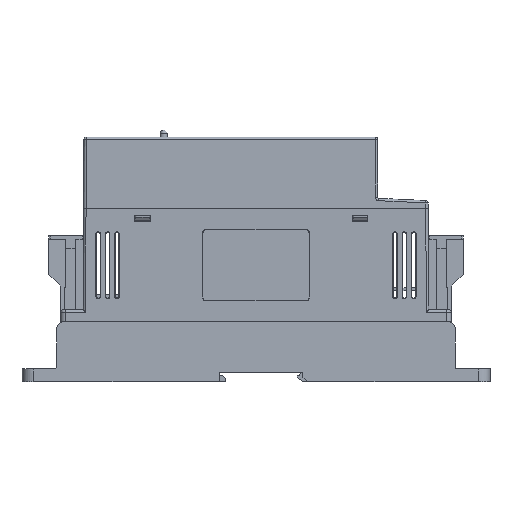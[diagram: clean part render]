
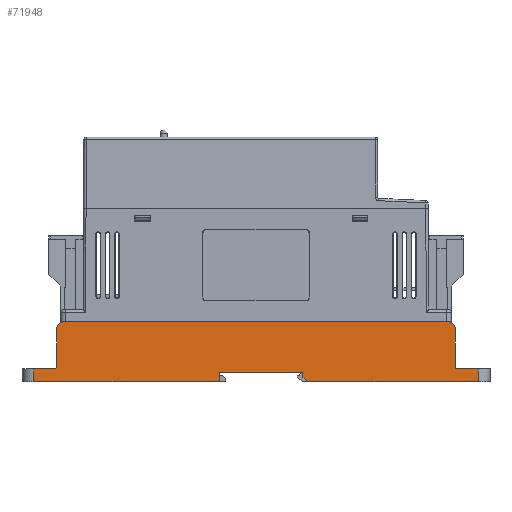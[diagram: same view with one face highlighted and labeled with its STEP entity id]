
A CAD part, left-side view. The second image highlights one B-rep face of the part: STEP entity #71948.
In plain terms, the highlighted planar face has unit normal (-1, 0, 0.009).
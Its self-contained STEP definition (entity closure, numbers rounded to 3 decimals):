
#402=ELLIPSE('',#76035,1.,1.);
#408=ELLIPSE('',#76072,1.,1.);
#437=ELLIPSE('',#76342,3.,3.);
#438=ELLIPSE('',#76343,3.,3.);
#7553=LINE('',#112250,#15929);
#8122=LINE('',#113785,#16498);
#8123=LINE('',#113788,#16499);
#8133=LINE('',#113809,#16509);
#8162=LINE('',#113870,#16538);
#8309=LINE('',#114168,#16685);
#8398=LINE('',#114474,#16774);
#8739=LINE('',#115507,#17115);
#8803=LINE('',#115646,#17179);
#8810=LINE('',#115661,#17186);
#8813=LINE('',#115670,#17189);
#8814=LINE('',#115673,#17190);
#8815=LINE('',#115674,#17191);
#8816=LINE('',#115676,#17192);
#8817=LINE('',#115677,#17193);
#15929=VECTOR('',#88928,1.);
#16498=VECTOR('',#90487,10.);
#16499=VECTOR('',#90490,10.);
#16509=VECTOR('',#90504,10.);
#16538=VECTOR('',#90537,10.);
#16685=VECTOR('',#90726,10.);
#16774=VECTOR('',#90861,10.);
#17115=VECTOR('',#91694,10.);
#17179=VECTOR('',#91798,10.);
#17186=VECTOR('',#91813,10.);
#17189=VECTOR('',#91826,10.);
#17190=VECTOR('',#91831,10.);
#17191=VECTOR('',#91832,10.);
#17192=VECTOR('',#91833,10.);
#17193=VECTOR('',#91834,10.);
#21122=FACE_OUTER_BOUND('',#24932,.T.);
#24932=EDGE_LOOP('',(#59153,#59154,#59155,#59156,#59157,#59158,#59159,#59160,
#59161,#59162,#59163,#59164,#59165,#59166,#59167,#59168,#59169,#59170,#59171));
#31489=VERTEX_POINT('',#112248);
#31490=VERTEX_POINT('',#112249);
#31806=VERTEX_POINT('',#113783);
#31807=VERTEX_POINT('',#113787);
#31815=VERTEX_POINT('',#113806);
#31816=VERTEX_POINT('',#113808);
#31845=VERTEX_POINT('',#113867);
#31846=VERTEX_POINT('',#113869);
#31948=VERTEX_POINT('',#114103);
#31975=VERTEX_POINT('',#114165);
#31976=VERTEX_POINT('',#114167);
#32087=VERTEX_POINT('',#114471);
#32088=VERTEX_POINT('',#114473);
#32097=VERTEX_POINT('',#114493);
#32321=VERTEX_POINT('',#115504);
#32322=VERTEX_POINT('',#115506);
#32377=VERTEX_POINT('',#115645);
#32381=VERTEX_POINT('',#115659);
#32383=VERTEX_POINT('',#115675);
#40117=EDGE_CURVE('',#31489,#31490,#7553,.T.);
#40807=EDGE_CURVE('',#31490,#31806,#8122,.T.);
#40808=EDGE_CURVE('',#31807,#31489,#8123,.T.);
#40818=EDGE_CURVE('',#31815,#31816,#8133,.T.);
#40848=EDGE_CURVE('',#31846,#31845,#8162,.T.);
#40979=EDGE_CURVE('',#31845,#31948,#402,.T.);
#41011=EDGE_CURVE('',#31975,#31976,#8309,.T.);
#41125=EDGE_CURVE('',#32088,#32087,#8398,.T.);
#41135=EDGE_CURVE('',#32097,#32088,#408,.T.);
#41548=EDGE_CURVE('',#32321,#32322,#8739,.T.);
#41619=EDGE_CURVE('',#32377,#32097,#8803,.T.);
#41627=EDGE_CURVE('',#32381,#31948,#8810,.T.);
#41632=EDGE_CURVE('',#32321,#31846,#8813,.T.);
#41633=EDGE_CURVE('',#32381,#31806,#437,.T.);
#41634=EDGE_CURVE('',#31807,#32377,#438,.T.);
#41635=EDGE_CURVE('',#32087,#31976,#8814,.T.);
#41636=EDGE_CURVE('',#31816,#31975,#8815,.T.);
#41637=EDGE_CURVE('',#32383,#31815,#8816,.T.);
#41638=EDGE_CURVE('',#32383,#32322,#8817,.T.);
#59153=ORIENTED_EDGE('',*,*,#41548,.F.);
#59154=ORIENTED_EDGE('',*,*,#41632,.T.);
#59155=ORIENTED_EDGE('',*,*,#40848,.T.);
#59156=ORIENTED_EDGE('',*,*,#40979,.T.);
#59157=ORIENTED_EDGE('',*,*,#41627,.F.);
#59158=ORIENTED_EDGE('',*,*,#41633,.T.);
#59159=ORIENTED_EDGE('',*,*,#40807,.F.);
#59160=ORIENTED_EDGE('',*,*,#40117,.F.);
#59161=ORIENTED_EDGE('',*,*,#40808,.F.);
#59162=ORIENTED_EDGE('',*,*,#41634,.T.);
#59163=ORIENTED_EDGE('',*,*,#41619,.T.);
#59164=ORIENTED_EDGE('',*,*,#41135,.T.);
#59165=ORIENTED_EDGE('',*,*,#41125,.T.);
#59166=ORIENTED_EDGE('',*,*,#41635,.T.);
#59167=ORIENTED_EDGE('',*,*,#41011,.F.);
#59168=ORIENTED_EDGE('',*,*,#41636,.F.);
#59169=ORIENTED_EDGE('',*,*,#40818,.F.);
#59170=ORIENTED_EDGE('',*,*,#41637,.F.);
#59171=ORIENTED_EDGE('',*,*,#41638,.T.);
#65165=PLANE('',#76341);
#71948=ADVANCED_FACE('',(#21122),#65165,.F.);
#76035=AXIS2_PLACEMENT_3D('',#114105,#90682,#90683);
#76072=AXIS2_PLACEMENT_3D('',#114494,#90877,#90878);
#76341=AXIS2_PLACEMENT_3D('',#115669,#91824,#91825);
#76342=AXIS2_PLACEMENT_3D('',#115671,#91827,#91828);
#76343=AXIS2_PLACEMENT_3D('',#115672,#91829,#91830);
#88928=DIRECTION('',(0.,-1.,0.));
#90487=DIRECTION('',(0.,-1.,0.));
#90490=DIRECTION('',(0.,-1.,0.));
#90504=DIRECTION('',(0.,1.,0.));
#90537=DIRECTION('',(0.,1.,0.));
#90682=DIRECTION('center_axis',(1.,0.,-0.009));
#90683=DIRECTION('ref_axis',(0.009,0.,1.));
#90726=DIRECTION('',(0.,1.,0.));
#90861=DIRECTION('',(0.,1.,0.));
#90877=DIRECTION('center_axis',(1.,0.,-0.009));
#90878=DIRECTION('ref_axis',(0.009,0.,1.));
#91694=DIRECTION('',(0.,1.,0.));
#91798=DIRECTION('',(-0.009,0.,-1.));
#91813=DIRECTION('',(-0.009,0.,-1.));
#91824=DIRECTION('center_axis',(1.,0.,-0.009));
#91825=DIRECTION('ref_axis',(-0.009,0.,-1.));
#91826=DIRECTION('',(0.009,0.,1.));
#91827=DIRECTION('center_axis',(-1.,0.,0.009));
#91828=DIRECTION('ref_axis',(0.009,0.,1.));
#91829=DIRECTION('center_axis',(-1.,0.,0.009));
#91830=DIRECTION('ref_axis',(0.009,0.,1.));
#91831=DIRECTION('',(-0.009,0.,-1.));
#91832=DIRECTION('',(-0.009,0.035,-0.999));
#91833=DIRECTION('',(0.009,0.035,0.999));
#91834=DIRECTION('',(-0.006,-0.719,-0.695));
#112248=CARTESIAN_POINT('',(-52.7,85.,3.));
#112249=CARTESIAN_POINT('',(-52.7,-78.,3.));
#112250=CARTESIAN_POINT('',(-52.7,0.,3.));
#113783=CARTESIAN_POINT('',(-52.7,-78.7,3.));
#113785=CARTESIAN_POINT('',(-52.7,-78.,3.));
#113787=CARTESIAN_POINT('',(-52.7,85.7,3.));
#113788=CARTESIAN_POINT('',(-52.7,85.7,3.));
#113806=CARTESIAN_POINT('',(-52.889,-16.5,-18.7));
#113808=CARTESIAN_POINT('',(-52.889,18.999,-18.7));
#113809=CARTESIAN_POINT('',(-52.889,-16.5,-18.7));
#113867=CARTESIAN_POINT('',(-52.876,-82.7,-17.2));
#113869=CARTESIAN_POINT('',(-52.876,-91.5,-17.2));
#113870=CARTESIAN_POINT('',(-52.876,-91.5,-17.2));
#114103=CARTESIAN_POINT('',(-52.868,-81.7,-16.2));
#114105=CARTESIAN_POINT('Origin',(-52.868,-82.7,-16.2));
#114165=CARTESIAN_POINT('',(-52.924,19.139,-22.7));
#114167=CARTESIAN_POINT('',(-52.924,98.5,-22.7));
#114168=CARTESIAN_POINT('',(-52.924,19.139,-22.7));
#114471=CARTESIAN_POINT('',(-52.876,98.5,-17.2));
#114473=CARTESIAN_POINT('',(-52.876,89.7,-17.2));
#114474=CARTESIAN_POINT('',(-52.876,89.7,-17.2));
#114493=CARTESIAN_POINT('',(-52.868,88.7,-16.2));
#114494=CARTESIAN_POINT('Origin',(-52.868,89.7,-16.2));
#115504=CARTESIAN_POINT('',(-52.924,-91.5,-22.7));
#115506=CARTESIAN_POINT('',(-52.924,-18.64,-22.7));
#115507=CARTESIAN_POINT('',(-52.924,-91.5,-22.7));
#115645=CARTESIAN_POINT('',(-52.726,88.7,0.));
#115646=CARTESIAN_POINT('',(-52.726,88.7,0.));
#115659=CARTESIAN_POINT('',(-52.726,-81.7,0.));
#115661=CARTESIAN_POINT('',(-52.726,-81.7,0.));
#115669=CARTESIAN_POINT('Origin',(-53.442,0.,
-81.997));
#115670=CARTESIAN_POINT('',(-52.924,-91.5,-22.7));
#115671=CARTESIAN_POINT('Origin',(-52.726,-78.7,0.));
#115672=CARTESIAN_POINT('Origin',(-52.726,85.7,0.));
#115673=CARTESIAN_POINT('',(-52.876,98.5,-17.2));
#115674=CARTESIAN_POINT('',(-52.889,18.999,-18.7));
#115675=CARTESIAN_POINT('',(-52.907,-16.57,-20.701));
#115676=CARTESIAN_POINT('',(-52.907,-16.57,-20.701));
#115677=CARTESIAN_POINT('',(-52.907,-16.57,-20.701));
